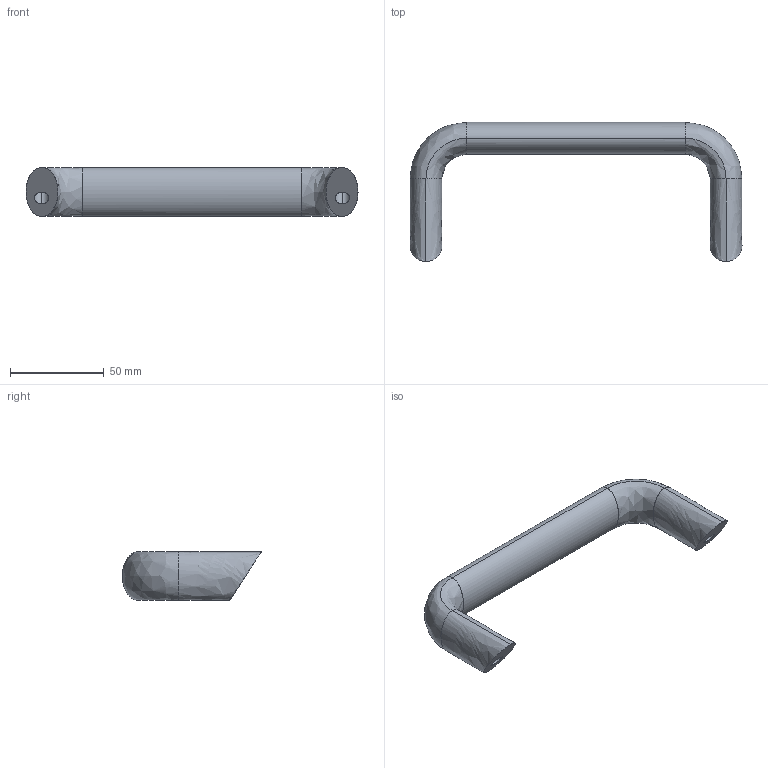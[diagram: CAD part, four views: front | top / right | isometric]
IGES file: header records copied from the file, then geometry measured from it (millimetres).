
Start section: SolidWorks IGES file using analytic representation for surfaces
Bounding box: 176.6 x 73.98 x 26 mm (x, y, z)
Surface area: 18817.6 mm2 (no closed solid volume)
Topology: 0 solids, 0 shells, 18 faces, 356 edges, 356 vertices
Faces by surface type: bspline 14, revolution 4
